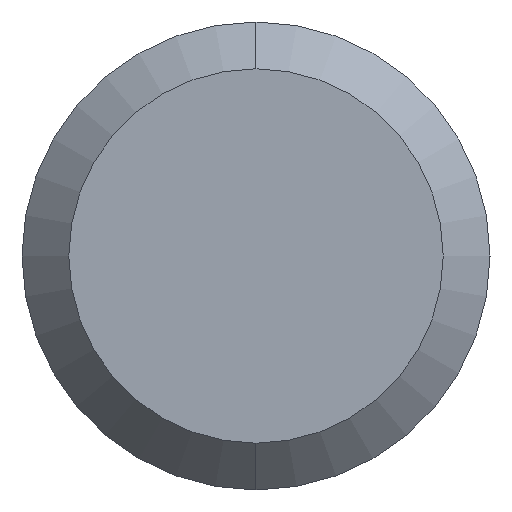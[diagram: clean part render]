
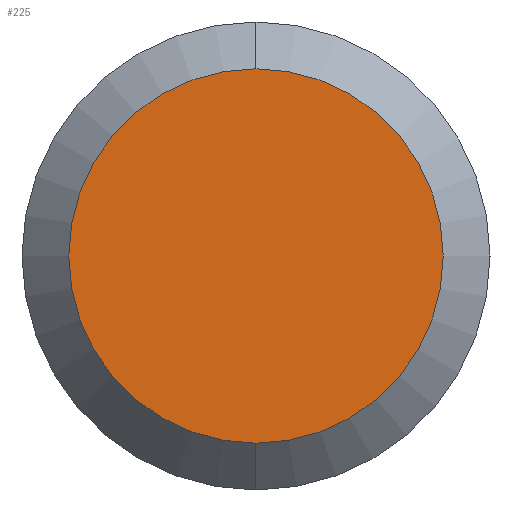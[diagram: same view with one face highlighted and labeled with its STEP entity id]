
A CAD part, left-side view. The second image highlights one B-rep face of the part: STEP entity #225.
In plain terms, the highlighted planar face has unit normal (-1, 0, 0).
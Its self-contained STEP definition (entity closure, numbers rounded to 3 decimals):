
#11 = CARTESIAN_POINT ( 'NONE',  ( 0., 0., 0. ) ) ;
#90 = ORIENTED_EDGE ( 'NONE', *, *, #173, .T. ) ;
#101 = VERTEX_POINT ( 'NONE', #150 ) ;
#150 = CARTESIAN_POINT ( 'NONE',  ( 0., 0., 1.6 ) ) ;
#159 = EDGE_CURVE ( 'NONE', #101, #232, #474, .T. ) ;
#171 = PLANE ( 'NONE',  #416 ) ;
#173 = EDGE_CURVE ( 'NONE', #232, #101, #429, .T. ) ;
#196 = DIRECTION ( 'NONE',  ( -1., 0., 0. ) ) ;
#202 = EDGE_LOOP ( 'NONE', ( #90, #315 ) ) ;
#206 = CARTESIAN_POINT ( 'NONE',  ( 0., 0., 0. ) ) ;
#225 = ADVANCED_FACE ( 'NONE', ( #291 ), #171, .F. ) ;
#232 = VERTEX_POINT ( 'NONE', #322 ) ;
#263 = DIRECTION ( 'NONE',  ( 0., 0., 1. ) ) ;
#272 = DIRECTION ( 'NONE',  ( -1., 0., 0. ) ) ;
#273 = CARTESIAN_POINT ( 'NONE',  ( 0., 0., 0. ) ) ;
#288 = DIRECTION ( 'NONE',  ( 1., 0., 0. ) ) ;
#291 = FACE_OUTER_BOUND ( 'NONE', #202, .T. ) ;
#295 = DIRECTION ( 'NONE',  ( 0., 0., 1. ) ) ;
#308 = AXIS2_PLACEMENT_3D ( 'NONE', #273, #272, #263 ) ;
#315 = ORIENTED_EDGE ( 'NONE', *, *, #159, .T. ) ;
#322 = CARTESIAN_POINT ( 'NONE',  ( 0., 0., -1.6 ) ) ;
#416 = AXIS2_PLACEMENT_3D ( 'NONE', #11, #288, #465 ) ;
#429 = CIRCLE ( 'NONE', #483, 1.6 ) ;
#465 = DIRECTION ( 'NONE',  ( 0., 0., -1. ) ) ;
#474 = CIRCLE ( 'NONE', #308, 1.6 ) ;
#483 = AXIS2_PLACEMENT_3D ( 'NONE', #206, #196, #295 ) ;
